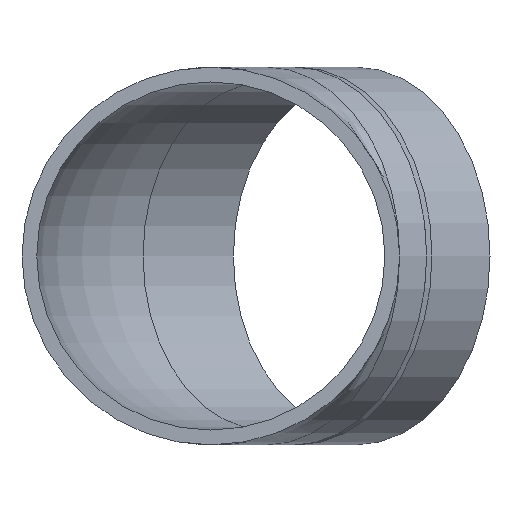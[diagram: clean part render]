
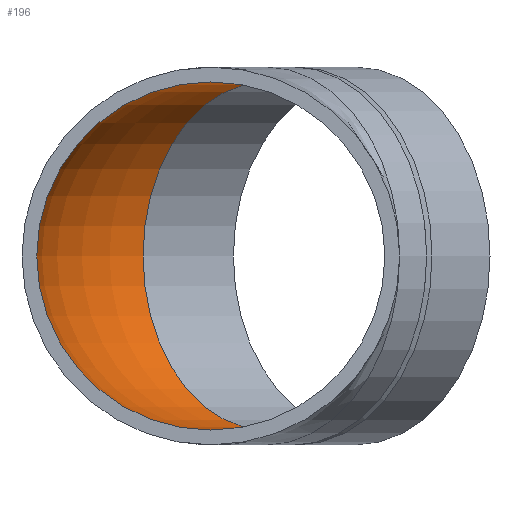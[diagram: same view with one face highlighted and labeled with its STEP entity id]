
A CAD part, front view. The second image highlights one B-rep face of the part: STEP entity #196.
In plain terms, the highlighted toroidal (fillet/blend) face has major radius 55 mm and minor radius 50.7 mm.
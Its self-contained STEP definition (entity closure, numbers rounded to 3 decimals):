
#13=TOROIDAL_SURFACE($,#227,55.,50.7);
#33=FACE_BOUND($,#89,.T.);
#52=CIRCLE($,#226,50.7);
#53=CIRCLE($,#228,50.7);
#65=FACE_OUTER_BOUND($,#88,.T.);
#88=EDGE_LOOP($,(#151));
#89=EDGE_LOOP($,(#152));
#112=VERTEX_POINT($,#372);
#113=VERTEX_POINT($,#375);
#128=EDGE_CURVE($,#112,#112,#52,.T.);
#129=EDGE_CURVE($,#113,#113,#53,.T.);
#151=ORIENTED_EDGE($,*,*,#129,.T.);
#152=ORIENTED_EDGE($,*,*,#128,.F.);
#196=ADVANCED_FACE($,(#65,#33),#13,.F.);
#226=AXIS2_PLACEMENT_3D($,#373,#279,#280);
#227=AXIS2_PLACEMENT_3D($,#374,#281,#282);
#228=AXIS2_PLACEMENT_3D($,#376,#283,#284);
#279=DIRECTION('center_axis',(-0.707,-0.707,0.));
#280=DIRECTION('ref_axis',(0.707,-0.707,0.));
#281=DIRECTION('center_axis',(0.,0.,-1.));
#282=DIRECTION('ref_axis',(-1.,0.,0.));
#283=DIRECTION('center_axis',(0.,-1.,0.));
#284=DIRECTION('ref_axis',(1.,0.,0.));
#372=CARTESIAN_POINT('',(-19.741,111.959,0.));
#373=CARTESIAN_POINT('Origin',(16.109,76.109,0.));
#374=CARTESIAN_POINT('Origin',(55.,37.218,0.));
#375=CARTESIAN_POINT('',(-50.7,37.218,0.));
#376=CARTESIAN_POINT('Origin',(0.,37.218,0.));
